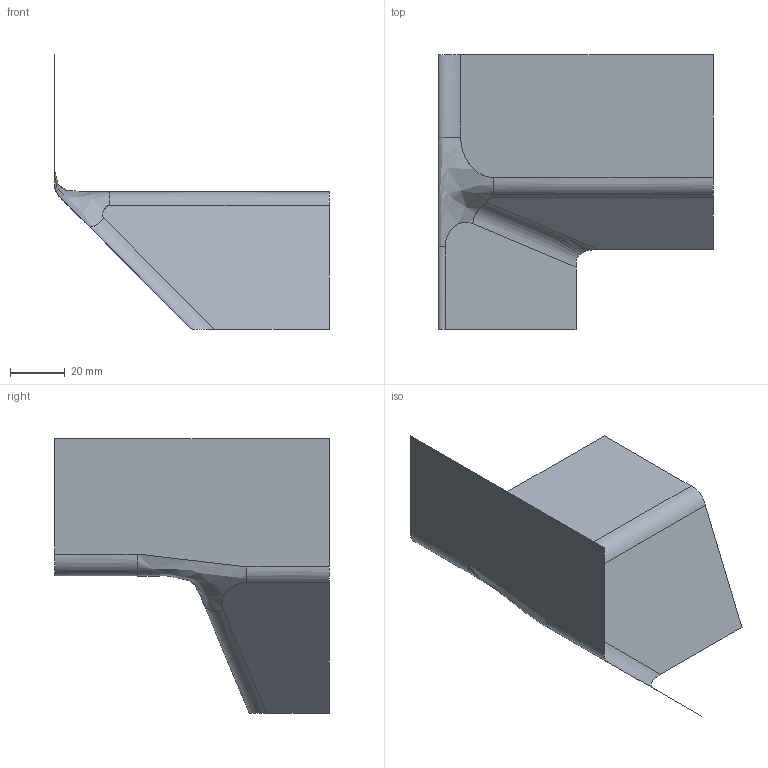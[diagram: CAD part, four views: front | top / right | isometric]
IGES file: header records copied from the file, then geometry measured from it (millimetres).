
Global section: file name: 8_hole.igs; native system: THINKDESIGN 2009.3.110; preprocessor: PDElib Version v4.4, created Mon 02/23/2004 ; date: 20110829.131135; units: millimetre
Bounding box: 100 x 100 x 100 mm (x, y, z)
Surface area: 16490.5 mm2 (no closed solid volume)
Topology: 0 solids, 0 shells, 9 faces, 45 edges, 45 vertices
Faces by surface type: bspline 9
